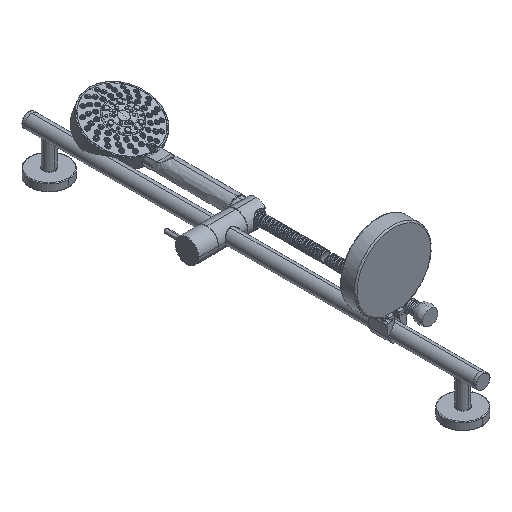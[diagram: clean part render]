
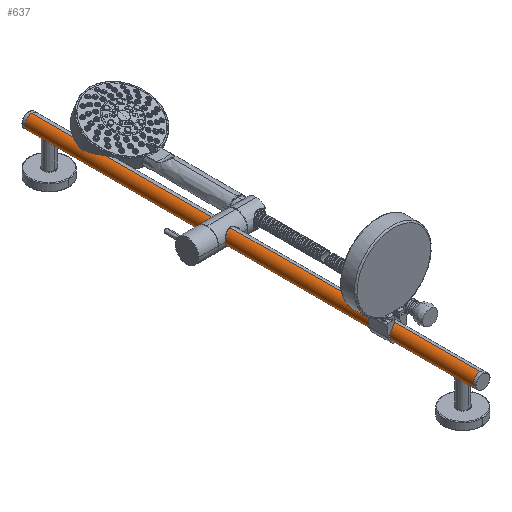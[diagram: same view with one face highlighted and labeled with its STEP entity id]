
A CAD part, isometric view. The second image highlights one B-rep face of the part: STEP entity #637.
In plain terms, the highlighted cylindrical face has radius 10.3 mm (diameter 20.6 mm), a partial arc.
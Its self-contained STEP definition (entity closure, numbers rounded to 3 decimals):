
#510=CARTESIAN_POINT('',(0.,594.,46.363));
#511=CARTESIAN_POINT('',(-0.625,594.,46.363));
#512=CARTESIAN_POINT('',(-1.839,594.182,46.471));
#513=CARTESIAN_POINT('',(-3.622,595.084,46.97));
#514=CARTESIAN_POINT('',(-4.954,596.447,47.605));
#515=CARTESIAN_POINT('',(-5.801,598.125,48.143));
#516=CARTESIAN_POINT('',(-6.095,599.97,48.362));
#517=CARTESIAN_POINT('',(-5.819,601.817,48.156));
#518=CARTESIAN_POINT('',(-4.989,603.506,47.624));
#519=CARTESIAN_POINT('',(-3.649,604.899,46.98));
#520=CARTESIAN_POINT('',(-1.859,605.813,46.474));
#521=CARTESIAN_POINT('',(-0.632,606.,46.363));
#522=CARTESIAN_POINT('',(0.,606.,46.363));
#524=CARTESIAN_POINT('',(0.,625.,56.663));
#525=DIRECTION('',(0.,1.,0.));
#526=DIRECTION('',(0.,0.,-1.));
#527=AXIS2_PLACEMENT_3D('',#524,#525,#526);
#529=CARTESIAN_POINT('',(0.,-25.,56.663));
#530=DIRECTION('',(0.,-1.,0.));
#531=DIRECTION('',(0.,0.,1.));
#532=AXIS2_PLACEMENT_3D('',#529,#530,#531);
#534=CARTESIAN_POINT('',(0.,-6.,46.363));
#535=CARTESIAN_POINT('',(-0.625,-6.,46.363));
#536=CARTESIAN_POINT('',(-1.839,-5.818,46.471));
#537=CARTESIAN_POINT('',(-3.622,-4.916,46.97));
#538=CARTESIAN_POINT('',(-4.954,-3.553,47.605));
#539=CARTESIAN_POINT('',(-5.801,-1.875,48.143));
#540=CARTESIAN_POINT('',(-6.095,-0.03,
48.362));
#541=CARTESIAN_POINT('',(-5.819,1.817,48.156));
#542=CARTESIAN_POINT('',(-4.989,3.506,47.624));
#543=CARTESIAN_POINT('',(-3.649,4.899,46.98));
#544=CARTESIAN_POINT('',(-1.859,5.813,46.474));
#545=CARTESIAN_POINT('',(-0.632,6.,46.363));
#546=CARTESIAN_POINT('',(0.,6.,46.363));
#562=DIRECTION('',(0.,1.,0.));
#563=VECTOR('',#562,588.);
#564=CARTESIAN_POINT('',(0.,6.,46.363));
#565=LINE('',#564,#563);
#580=DIRECTION('',(0.,1.,0.));
#581=VECTOR('',#580,19.);
#582=CARTESIAN_POINT('',(0.,-25.,46.363));
#583=LINE('',#582,#581);
#589=DIRECTION('',(0.,1.,0.));
#590=VECTOR('',#589,650.);
#591=CARTESIAN_POINT('',(0.,-25.,66.963));
#592=LINE('',#591,#590);
#598=DIRECTION('',(0.,1.,0.));
#599=VECTOR('',#598,19.);
#600=CARTESIAN_POINT('',(0.,606.,46.363));
#601=LINE('',#600,#599);
#602=CARTESIAN_POINT('',(0.,-25.,66.963));
#603=CARTESIAN_POINT('',(0.,625.,66.963));
#604=VERTEX_POINT('',#602);
#605=VERTEX_POINT('',#603);
#606=CARTESIAN_POINT('',(0.,-25.,46.363));
#607=VERTEX_POINT('',#606);
#608=CARTESIAN_POINT('',(0.,625.,46.363));
#609=VERTEX_POINT('',#608);
#610=VERTEX_POINT('',#546);
#611=VERTEX_POINT('',#534);
#612=VERTEX_POINT('',#522);
#613=VERTEX_POINT('',#510);
#614=CARTESIAN_POINT('',(0.,-57.5,56.663));
#615=DIRECTION('',(0.,1.,0.));
#616=DIRECTION('',(0.,0.,-1.));
#617=AXIS2_PLACEMENT_3D('',#614,#615,#616);
#618=CYLINDRICAL_SURFACE('',#617,10.3);
#620=ORIENTED_EDGE('',*,*,#619,.T.);
#622=ORIENTED_EDGE('',*,*,#621,.T.);
#624=ORIENTED_EDGE('',*,*,#623,.T.);
#626=ORIENTED_EDGE('',*,*,#625,.F.);
#628=ORIENTED_EDGE('',*,*,#627,.T.);
#630=ORIENTED_EDGE('',*,*,#629,.T.);
#632=ORIENTED_EDGE('',*,*,#631,.T.);
#634=ORIENTED_EDGE('',*,*,#633,.T.);
#635=EDGE_LOOP('',(#620,#622,#624,#626,#628,#630,#632,#634));
#636=FACE_OUTER_BOUND('',#635,.F.);
#523=B_SPLINE_CURVE_WITH_KNOTS('',3,(#510,#511,#512,#513,#514,#515,#516,#517,
#518,#519,#520,#521,#522),.UNSPECIFIED.,.F.,.F.,(4,1,1,1,1,1,1,1,1,1,4),(0.,
0.1,0.2,0.3,0.4,0.5,0.6,0.7,0.8,0.9,1.),.UNSPECIFIED.);
#528=CIRCLE('',#527,10.3);
#533=CIRCLE('',#532,10.3);
#547=B_SPLINE_CURVE_WITH_KNOTS('',3,(#534,#535,#536,#537,#538,#539,#540,#541,
#542,#543,#544,#545,#546),.UNSPECIFIED.,.F.,.F.,(4,1,1,1,1,1,1,1,1,1,4),(0.,
0.1,0.2,0.3,0.4,0.5,0.6,0.7,0.8,0.9,1.),.UNSPECIFIED.);
#619=EDGE_CURVE('',#613,#612,#523,.T.);
#621=EDGE_CURVE('',#612,#609,#601,.T.);
#623=EDGE_CURVE('',#609,#605,#528,.T.);
#625=EDGE_CURVE('',#604,#605,#592,.T.);
#627=EDGE_CURVE('',#604,#607,#533,.T.);
#629=EDGE_CURVE('',#607,#611,#583,.T.);
#631=EDGE_CURVE('',#611,#610,#547,.T.);
#633=EDGE_CURVE('',#610,#613,#565,.T.);
#637=ADVANCED_FACE('',(#636),#618,.T.);
